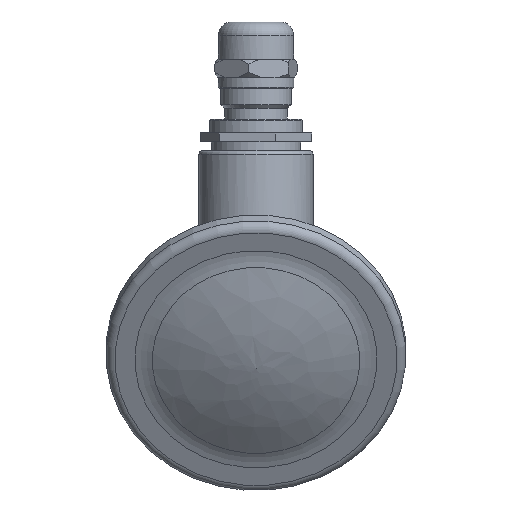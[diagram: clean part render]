
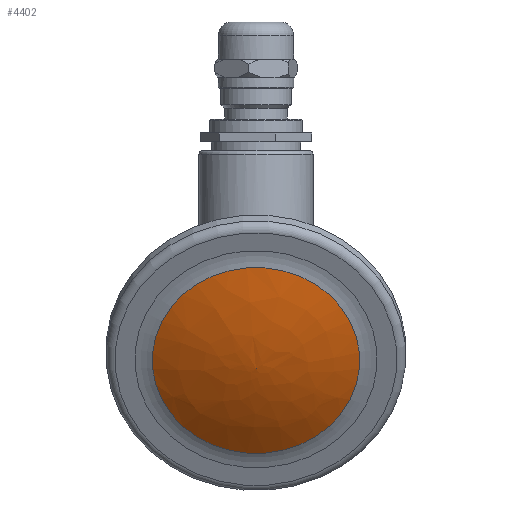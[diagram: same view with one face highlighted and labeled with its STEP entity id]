
A CAD part, left-side view. The second image highlights one B-rep face of the part: STEP entity #4402.
In plain terms, the highlighted free-form (B-spline) face has degree [3, 3] with [5, 19] control points.
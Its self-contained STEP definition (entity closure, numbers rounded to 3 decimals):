
#21=VERTEX_LOOP('',#1895);
#23=B_SPLINE_SURFACE_WITH_KNOTS('',3,3,((#7725,#7726,#7727,#7728,#7729,
#7730,#7731,#7732,#7733,#7734,#7735,#7736,#7737,#7738,#7739,#7740,#7741,
#7742,#7743),(#7744,#7745,#7746,#7747,#7748,#7749,#7750,#7751,#7752,#7753,
#7754,#7755,#7756,#7757,#7758,#7759,#7760,#7761,#7762),(#7763,#7764,#7765,
#7766,#7767,#7768,#7769,#7770,#7771,#7772,#7773,#7774,#7775,#7776,#7777,
#7778,#7779,#7780,#7781),(#7782,#7783,#7784,#7785,#7786,#7787,#7788,#7789,
#7790,#7791,#7792,#7793,#7794,#7795,#7796,#7797,#7798,#7799,#7800),(#7801,
#7802,#7803,#7804,#7805,#7806,#7807,#7808,#7809,#7810,#7811,#7812,#7813,
#7814,#7815,#7816,#7817,#7818,#7819)),.UNSPECIFIED.,.F.,.T.,.F.,(4,1,4),
(1,1,1,1,1,1,1,1,1,1,1,1,1,1,1,1,1,1,1,1,1,1,1),(0.,0.49,0.98),
(-1.178,-0.785,-0.393,0.,0.393,
0.785,1.178,1.571,1.963,2.356,
2.749,3.142,3.534,3.927,4.32,
4.712,5.105,5.498,5.89,6.283,
6.676,7.069,7.461),.UNSPECIFIED.);
#896=ORIENTED_EDGE('',*,*,#1543,.T.);
#1543=EDGE_CURVE('',#1896,#1896,#2137,.T.);
#1895=VERTEX_POINT('',#7820);
#1896=VERTEX_POINT('',#7822);
#2137=CIRCLE('',#4679,23.177);
#2338=EDGE_LOOP('',(#896));
#2631=FACE_BOUND('',#21,.T.);
#2632=FACE_BOUND('',#2338,.T.);
#4402=ADVANCED_FACE('',(#2631,#2632),#23,.F.);
#4679=AXIS2_PLACEMENT_3D('',#7821,#5225,#5226);
#5225=DIRECTION('',(-0.896,0.,-0.444));
#5226=DIRECTION('',(0.039,0.996,-0.078));
#7725=CARTESIAN_POINT('',(-101.546,0.,-5.716));
#7726=CARTESIAN_POINT('',(-101.546,0.,-5.716));
#7727=CARTESIAN_POINT('',(-101.546,0.,-5.716));
#7728=CARTESIAN_POINT('',(-101.546,0.,-5.716));
#7729=CARTESIAN_POINT('',(-101.546,0.,-5.716));
#7730=CARTESIAN_POINT('',(-101.546,0.,-5.716));
#7731=CARTESIAN_POINT('',(-101.546,0.,-5.716));
#7732=CARTESIAN_POINT('',(-101.546,0.,-5.716));
#7733=CARTESIAN_POINT('',(-101.546,0.,-5.716));
#7734=CARTESIAN_POINT('',(-101.546,0.,-5.716));
#7735=CARTESIAN_POINT('',(-101.546,0.,-5.716));
#7736=CARTESIAN_POINT('',(-101.546,0.,-5.716));
#7737=CARTESIAN_POINT('',(-101.546,0.,-5.716));
#7738=CARTESIAN_POINT('',(-101.546,0.,-5.716));
#7739=CARTESIAN_POINT('',(-101.546,0.,-5.716));
#7740=CARTESIAN_POINT('',(-101.546,0.,-5.716));
#7741=CARTESIAN_POINT('',(-101.546,0.,-5.716));
#7742=CARTESIAN_POINT('',(-101.546,0.,-5.716));
#7743=CARTESIAN_POINT('',(-101.546,0.,-5.716));
#7744=CARTESIAN_POINT('',(-103.026,1.861,-2.464));
#7745=CARTESIAN_POINT('',(-103.221,0.353,-2.07));
#7746=CARTESIAN_POINT('',(-103.145,-1.209,-2.222));
#7747=CARTESIAN_POINT('',(-102.81,-2.587,-2.899));
#7748=CARTESIAN_POINT('',(-102.267,-3.57,-3.997));
#7749=CARTESIAN_POINT('',(-101.598,-4.011,-5.348));
#7750=CARTESIAN_POINT('',(-100.905,-3.84,-6.748));
#7751=CARTESIAN_POINT('',(-100.294,-3.085,-7.982));
#7752=CARTESIAN_POINT('',(-99.857,-1.861,-8.864));
#7753=CARTESIAN_POINT('',(-99.662,-0.353,-9.258));
#7754=CARTESIAN_POINT('',(-99.738,1.209,-9.106));
#7755=CARTESIAN_POINT('',(-100.073,2.587,-8.429));
#7756=CARTESIAN_POINT('',(-100.616,3.57,-7.332));
#7757=CARTESIAN_POINT('',(-101.285,4.011,-5.98));
#7758=CARTESIAN_POINT('',(-101.978,3.84,-4.581));
#7759=CARTESIAN_POINT('',(-102.589,3.085,-3.346));
#7760=CARTESIAN_POINT('',(-103.026,1.861,-2.464));
#7761=CARTESIAN_POINT('',(-103.221,0.353,-2.07));
#7762=CARTESIAN_POINT('',(-103.145,-1.209,-2.222));
#7763=CARTESIAN_POINT('',(-105.461,5.595,4.326));
#7764=CARTESIAN_POINT('',(-106.049,1.06,5.513));
#7765=CARTESIAN_POINT('',(-105.821,-3.636,5.054));
#7766=CARTESIAN_POINT('',(-104.814,-7.778,3.019));
#7767=CARTESIAN_POINT('',(-103.18,-10.737,-0.282));
#7768=CARTESIAN_POINT('',(-101.168,-12.061,-4.346));
#7769=CARTESIAN_POINT('',(-99.085,-11.548,-8.554));
#7770=CARTESIAN_POINT('',(-97.247,-9.278,-12.267));
#7771=CARTESIAN_POINT('',(-95.934,-5.595,-14.918));
#7772=CARTESIAN_POINT('',(-95.347,-1.06,-16.105));
#7773=CARTESIAN_POINT('',(-95.574,3.636,-15.646));
#7774=CARTESIAN_POINT('',(-96.582,7.778,-13.611));
#7775=CARTESIAN_POINT('',(-98.216,10.737,-10.31));
#7776=CARTESIAN_POINT('',(-100.227,12.061,-6.246));
#7777=CARTESIAN_POINT('',(-102.311,11.548,-2.038));
#7778=CARTESIAN_POINT('',(-104.149,9.278,1.675));
#7779=CARTESIAN_POINT('',(-105.461,5.595,4.326));
#7780=CARTESIAN_POINT('',(-106.049,1.06,5.513));
#7781=CARTESIAN_POINT('',(-105.821,-3.636,5.054));
#7782=CARTESIAN_POINT('',(-106.756,9.229,11.465));
#7783=CARTESIAN_POINT('',(-107.725,1.749,13.422));
#7784=CARTESIAN_POINT('',(-107.35,-5.997,12.665));
#7785=CARTESIAN_POINT('',(-105.689,-12.83,9.309));
#7786=CARTESIAN_POINT('',(-102.994,-17.709,3.865));
#7787=CARTESIAN_POINT('',(-99.675,-19.893,-2.838));
#7788=CARTESIAN_POINT('',(-96.239,-19.048,-9.78));
#7789=CARTESIAN_POINT('',(-93.207,-15.303,-15.903));
#7790=CARTESIAN_POINT('',(-91.042,-9.229,-20.277));
#7791=CARTESIAN_POINT('',(-90.073,-1.749,-22.233));
#7792=CARTESIAN_POINT('',(-90.448,5.997,-21.476));
#7793=CARTESIAN_POINT('',(-92.11,12.83,-18.12));
#7794=CARTESIAN_POINT('',(-94.805,17.709,-12.676));
#7795=CARTESIAN_POINT('',(-98.123,19.893,-5.973));
#7796=CARTESIAN_POINT('',(-101.56,19.048,0.969));
#7797=CARTESIAN_POINT('',(-104.591,15.303,7.092));
#7798=CARTESIAN_POINT('',(-106.756,9.229,11.465));
#7799=CARTESIAN_POINT('',(-107.725,1.749,13.422));
#7800=CARTESIAN_POINT('',(-107.35,-5.997,12.665));
#7801=CARTESIAN_POINT('',(-107.11,10.99,15.061));
#7802=CARTESIAN_POINT('',(-108.264,2.083,17.391));
#7803=CARTESIAN_POINT('',(-107.817,-7.141,16.489));
#7804=CARTESIAN_POINT('',(-105.839,-15.278,12.493));
#7805=CARTESIAN_POINT('',(-102.63,-21.088,6.01));
#7806=CARTESIAN_POINT('',(-98.678,-23.689,-1.972));
#7807=CARTESIAN_POINT('',(-94.586,-22.683,-10.238));
#7808=CARTESIAN_POINT('',(-90.976,-18.223,-17.53));
#7809=CARTESIAN_POINT('',(-88.398,-10.99,-22.738));
#7810=CARTESIAN_POINT('',(-87.244,-2.083,-25.068));
#7811=CARTESIAN_POINT('',(-87.691,7.141,-24.167));
#7812=CARTESIAN_POINT('',(-89.669,15.278,-20.17));
#7813=CARTESIAN_POINT('',(-92.878,21.088,-13.688));
#7814=CARTESIAN_POINT('',(-96.83,23.689,-5.705));
#7815=CARTESIAN_POINT('',(-100.922,22.683,2.561));
#7816=CARTESIAN_POINT('',(-104.532,18.223,9.853));
#7817=CARTESIAN_POINT('',(-107.11,10.99,15.061));
#7818=CARTESIAN_POINT('',(-108.264,2.083,17.391));
#7819=CARTESIAN_POINT('',(-107.817,-7.141,16.489));
#7820=CARTESIAN_POINT('',(-101.546,0.,-5.716));
#7821=CARTESIAN_POINT('',(-97.754,0.,-3.839));
#7822=CARTESIAN_POINT('',(-96.853,23.088,-5.658));
